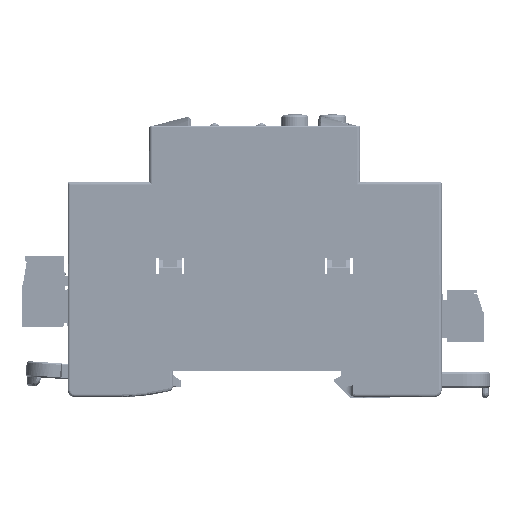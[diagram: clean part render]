
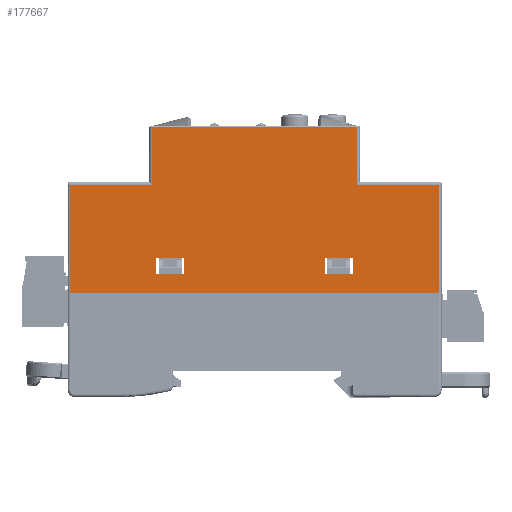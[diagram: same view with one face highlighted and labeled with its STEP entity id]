
A CAD part, left-side view. The second image highlights one B-rep face of the part: STEP entity #177667.
In plain terms, the highlighted planar face has unit normal (-1, 0, 0).
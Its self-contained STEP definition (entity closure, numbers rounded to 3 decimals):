
#13800 = FACE_BOUND ( 'NONE', #146194, .T. ) ;
#15026 = CARTESIAN_POINT ( 'NONE',  ( -193.4, -19.568, 164.355 ) ) ;
#15323 = ORIENTED_EDGE ( 'NONE', *, *, #309775, .F. ) ;
#26006 = CARTESIAN_POINT ( 'NONE',  ( -193.4, -26.468, 180.055 ) ) ;
#28095 = VERTEX_POINT ( 'NONE', #51023 ) ;
#28944 = EDGE_CURVE ( 'NONE', #97339, #76295, #176525, .T. ) ;
#30054 = VECTOR ( 'NONE', #292951, 1000. ) ;
#34980 = CARTESIAN_POINT ( 'NONE',  ( -193.4, 17.932, 180.055 ) ) ;
#37454 = CARTESIAN_POINT ( 'NONE',  ( -193.4, 10.432, 153.305 ) ) ;
#37524 = CARTESIAN_POINT ( 'NONE',  ( -193.4, 10.432, 164.355 ) ) ;
#38645 = CARTESIAN_POINT ( 'NONE',  ( -193.4, 17.332, 180.055 ) ) ;
#39932 = CARTESIAN_POINT ( 'NONE',  ( -193.4, -43.968, 156.855 ) ) ;
#41593 = DIRECTION ( 'NONE',  ( 0., -1., 0. ) ) ;
#43092 = ORIENTED_EDGE ( 'NONE', *, *, #193302, .F. ) ;
#45216 = ORIENTED_EDGE ( 'NONE', *, *, #300458, .T. ) ;
#47551 = DIRECTION ( 'NONE',  ( 0., 0., -1. ) ) ;
#49279 = VECTOR ( 'NONE', #243912, 1000. ) ;
#50095 = B_SPLINE_CURVE_WITH_KNOTS ( 'NONE', 1,
 ( #131820, #229501 ),
 .UNSPECIFIED., .F., .F.,
 ( 2, 2 ),
 ( 0., 12.3 ),
 .UNSPECIFIED. ) ;
#50936 = VECTOR ( 'NONE', #47551, 1000. ) ;
#51023 = CARTESIAN_POINT ( 'NONE',  ( -193.4, 34.832, 156.855 ) ) ;
#55421 = CARTESIAN_POINT ( 'NONE',  ( -193.4, -26.468, 180.055 ) ) ;
#55750 = ORIENTED_EDGE ( 'NONE', *, *, #56400, .F. ) ;
#56400 = EDGE_CURVE ( 'NONE', #224735, #188336, #111400, .T. ) ;
#67933 = EDGE_CURVE ( 'NONE', #105947, #242146, #144212, .T. ) ;
#72580 = CARTESIAN_POINT ( 'NONE',  ( -193.4, 17.332, 180.055 ) ) ;
#73875 = FACE_OUTER_BOUND ( 'NONE', #321922, .T. ) ;
#76295 = VERTEX_POINT ( 'NONE', #270026 ) ;
#79848 = EDGE_CURVE ( 'NONE', #242146, #260730, #148384, .T. ) ;
#81273 = FACE_BOUND ( 'NONE', #404322, .T. ) ;
#92250 = CARTESIAN_POINT ( 'NONE',  ( -193.4, -26.468, 192.355 ) ) ;
#96241 = CARTESIAN_POINT ( 'NONE',  ( -193.4, -43.968, 156.855 ) ) ;
#97339 = VERTEX_POINT ( 'NONE', #37524 ) ;
#99840 = AXIS2_PLACEMENT_3D ( 'NONE', #186999, #449651, #284274 ) ;
#105947 = VERTEX_POINT ( 'NONE', #302153 ) ;
#111400 = B_SPLINE_CURVE_WITH_KNOTS ( 'NONE', 1,
 ( #140076, #34980, #72580 ),
 .UNSPECIFIED., .F., .F.,
 ( 2, 1, 2 ),
 ( 0., 16.9, 17.5 ),
 .UNSPECIFIED. ) ;
#116769 = LINE ( 'NONE', #296937, #147808 ) ;
#121188 = CARTESIAN_POINT ( 'NONE',  ( -193.4, 17.332, 192.355 ) ) ;
#121359 = DIRECTION ( 'NONE',  ( 0., 0., 1. ) ) ;
#131820 = CARTESIAN_POINT ( 'NONE',  ( -193.4, -26.468, 180.055 ) ) ;
#132907 = EDGE_CURVE ( 'NONE', #224735, #28095, #452842, .T. ) ;
#140076 = CARTESIAN_POINT ( 'NONE',  ( -193.4, 34.832, 180.055 ) ) ;
#144212 = LINE ( 'NONE', #406905, #422583 ) ;
#146194 = EDGE_LOOP ( 'NONE', ( #312798, #270880, #266396, #460225 ) ) ;
#147808 = VECTOR ( 'NONE', #41593, 1000. ) ;
#148384 = LINE ( 'NONE', #358448, #259501 ) ;
#157905 = CARTESIAN_POINT ( 'NONE',  ( -193.4, -25.568, 164.355 ) ) ;
#159348 = ORIENTED_EDGE ( 'NONE', *, *, #295435, .T. ) ;
#161412 = CARTESIAN_POINT ( 'NONE',  ( -193.4, 42.712, 164.355 ) ) ;
#162189 = EDGE_CURVE ( 'NONE', #323618, #372594, #116769, .T. ) ;
#167526 = CARTESIAN_POINT ( 'NONE',  ( -193.4, -43.968, 180.055 ) ) ;
#172837 = VECTOR ( 'NONE', #420300, 1000. ) ;
#176525 = LINE ( 'NONE', #161412, #49279 ) ;
#177667 = ADVANCED_FACE ( 'NONE', ( #81273, #13800, #73875 ), #329598, .T. ) ;
#181850 = B_SPLINE_CURVE_WITH_KNOTS ( 'NONE', 1,
 ( #96241, #231494 ),
 .UNSPECIFIED., .F., .F.,
 ( 2, 2 ),
 ( 0., 78.8 ),
 .UNSPECIFIED. ) ;
#186999 = CARTESIAN_POINT ( 'NONE',  ( -193.4, 42.712, 153.305 ) ) ;
#188336 = VERTEX_POINT ( 'NONE', #300306 ) ;
#191616 = CARTESIAN_POINT ( 'NONE',  ( -193.4, -43.968, 180.055 ) ) ;
#191684 = ORIENTED_EDGE ( 'NONE', *, *, #132907, .T. ) ;
#193302 = EDGE_CURVE ( 'NONE', #311323, #28095, #181850, .T. ) ;
#196066 = CARTESIAN_POINT ( 'NONE',  ( -193.4, 34.832, 180.055 ) ) ;
#201106 = B_SPLINE_CURVE_WITH_KNOTS ( 'NONE', 1,
 ( #26006, #363973, #453845 ),
 .UNSPECIFIED., .F., .F.,
 ( 2, 1, 2 ),
 ( 0., 0.6, 17.5 ),
 .UNSPECIFIED. ) ;
#204772 = CARTESIAN_POINT ( 'NONE',  ( -193.4, -19.568, 160.855 ) ) ;
#206149 = CARTESIAN_POINT ( 'NONE',  ( -193.4, 17.332, 192.355 ) ) ;
#221236 = CARTESIAN_POINT ( 'NONE',  ( -193.4, -26.468, 192.355 ) ) ;
#221742 = VECTOR ( 'NONE', #464706, 1000. ) ;
#224735 = VERTEX_POINT ( 'NONE', #409167 ) ;
#229501 = CARTESIAN_POINT ( 'NONE',  ( -193.4, -26.468, 192.355 ) ) ;
#231494 = CARTESIAN_POINT ( 'NONE',  ( -193.4, 34.832, 156.855 ) ) ;
#232325 = EDGE_CURVE ( 'NONE', #338406, #403467, #201106, .T. ) ;
#232917 = LINE ( 'NONE', #345700, #30054 ) ;
#233610 = CARTESIAN_POINT ( 'NONE',  ( -193.4, 34.832, 156.855 ) ) ;
#237665 = CARTESIAN_POINT ( 'NONE',  ( -193.4, 17.332, 192.355 ) ) ;
#242146 = VERTEX_POINT ( 'NONE', #157905 ) ;
#243912 = DIRECTION ( 'NONE',  ( 0., 1., 0. ) ) ;
#246562 = EDGE_CURVE ( 'NONE', #342030, #344496, #378971, .T. ) ;
#250193 = LINE ( 'NONE', #430354, #50936 ) ;
#253565 = EDGE_CURVE ( 'NONE', #447944, #105947, #232917, .T. ) ;
#259501 = VECTOR ( 'NONE', #411060, 1000. ) ;
#260730 = VERTEX_POINT ( 'NONE', #15026 ) ;
#261848 = ORIENTED_EDGE ( 'NONE', *, *, #232325, .F. ) ;
#266396 = ORIENTED_EDGE ( 'NONE', *, *, #253565, .F. ) ;
#270026 = CARTESIAN_POINT ( 'NONE',  ( -193.4, 16.432, 164.355 ) ) ;
#270880 = ORIENTED_EDGE ( 'NONE', *, *, #67933, .F. ) ;
#284274 = DIRECTION ( 'NONE',  ( 0., 0., 1. ) ) ;
#292951 = DIRECTION ( 'NONE',  ( 0., -1., 0. ) ) ;
#294822 = ORIENTED_EDGE ( 'NONE', *, *, #162189, .F. ) ;
#295435 = EDGE_CURVE ( 'NONE', #311323, #403467, #315756, .T. ) ;
#296937 = CARTESIAN_POINT ( 'NONE',  ( -193.4, 42.712, 160.855 ) ) ;
#298436 = EDGE_CURVE ( 'NONE', #260730, #447944, #250193, .T. ) ;
#300306 = CARTESIAN_POINT ( 'NONE',  ( -193.4, 17.332, 180.055 ) ) ;
#300458 = EDGE_CURVE ( 'NONE', #344496, #188336, #446361, .T. ) ;
#302153 = CARTESIAN_POINT ( 'NONE',  ( -193.4, -25.568, 160.855 ) ) ;
#309775 = EDGE_CURVE ( 'NONE', #76295, #323618, #396925, .T. ) ;
#311323 = VERTEX_POINT ( 'NONE', #433137 ) ;
#312798 = ORIENTED_EDGE ( 'NONE', *, *, #79848, .F. ) ;
#315756 = B_SPLINE_CURVE_WITH_KNOTS ( 'NONE', 1,
 ( #39932, #167526 ),
 .UNSPECIFIED., .F., .F.,
 ( 2, 2 ),
 ( 0., 23.2 ),
 .UNSPECIFIED. ) ;
#321922 = EDGE_LOOP ( 'NONE', ( #45216, #55750, #191684, #43092, #159348, #261848, #388523, #446846 ) ) ;
#323618 = VERTEX_POINT ( 'NONE', #329453 ) ;
#329453 = CARTESIAN_POINT ( 'NONE',  ( -193.4, 16.432, 160.855 ) ) ;
#329598 = PLANE ( 'NONE',  #99840 ) ;
#334677 = ORIENTED_EDGE ( 'NONE', *, *, #440505, .F. ) ;
#338406 = VERTEX_POINT ( 'NONE', #55421 ) ;
#342030 = VERTEX_POINT ( 'NONE', #92250 ) ;
#344496 = VERTEX_POINT ( 'NONE', #237665 ) ;
#345700 = CARTESIAN_POINT ( 'NONE',  ( -193.4, 42.712, 160.855 ) ) ;
#351316 = EDGE_CURVE ( 'NONE', #338406, #342030, #50095, .T. ) ;
#358448 = CARTESIAN_POINT ( 'NONE',  ( -193.4, 42.712, 164.355 ) ) ;
#363973 = CARTESIAN_POINT ( 'NONE',  ( -193.4, -27.068, 180.055 ) ) ;
#372594 = VERTEX_POINT ( 'NONE', #425430 ) ;
#378971 = B_SPLINE_CURVE_WITH_KNOTS ( 'NONE', 1,
 ( #221236, #206149 ),
 .UNSPECIFIED., .F., .F.,
 ( 2, 2 ),
 ( 0., 43.8 ),
 .UNSPECIFIED. ) ;
#388523 = ORIENTED_EDGE ( 'NONE', *, *, #351316, .T. ) ;
#396925 = LINE ( 'NONE', #449609, #221742 ) ;
#403467 = VERTEX_POINT ( 'NONE', #191616 ) ;
#404322 = EDGE_LOOP ( 'NONE', ( #431740, #334677, #294822, #15323 ) ) ;
#406905 = CARTESIAN_POINT ( 'NONE',  ( -193.4, -25.568, 153.305 ) ) ;
#409167 = CARTESIAN_POINT ( 'NONE',  ( -193.4, 34.832, 180.055 ) ) ;
#411060 = DIRECTION ( 'NONE',  ( 0., 1., 0. ) ) ;
#420300 = DIRECTION ( 'NONE',  ( 0., 0., 1. ) ) ;
#422583 = VECTOR ( 'NONE', #121359, 1000. ) ;
#425430 = CARTESIAN_POINT ( 'NONE',  ( -193.4, 10.432, 160.855 ) ) ;
#430354 = CARTESIAN_POINT ( 'NONE',  ( -193.4, -19.568, 153.305 ) ) ;
#431740 = ORIENTED_EDGE ( 'NONE', *, *, #28944, .F. ) ;
#433137 = CARTESIAN_POINT ( 'NONE',  ( -193.4, -43.968, 156.855 ) ) ;
#440505 = EDGE_CURVE ( 'NONE', #372594, #97339, #442745, .T. ) ;
#442745 = LINE ( 'NONE', #37454, #172837 ) ;
#446361 = B_SPLINE_CURVE_WITH_KNOTS ( 'NONE', 1,
 ( #121188, #38645 ),
 .UNSPECIFIED., .F., .F.,
 ( 2, 2 ),
 ( 0., 12.3 ),
 .UNSPECIFIED. ) ;
#446846 = ORIENTED_EDGE ( 'NONE', *, *, #246562, .T. ) ;
#447944 = VERTEX_POINT ( 'NONE', #204772 ) ;
#449609 = CARTESIAN_POINT ( 'NONE',  ( -193.4, 16.432, 153.305 ) ) ;
#449651 = DIRECTION ( 'NONE',  ( -1., 0., 0. ) ) ;
#452842 = B_SPLINE_CURVE_WITH_KNOTS ( 'NONE', 1,
 ( #196066, #233610 ),
 .UNSPECIFIED., .F., .F.,
 ( 2, 2 ),
 ( 0., 23.2 ),
 .UNSPECIFIED. ) ;
#453845 = CARTESIAN_POINT ( 'NONE',  ( -193.4, -43.968, 180.055 ) ) ;
#460225 = ORIENTED_EDGE ( 'NONE', *, *, #298436, .F. ) ;
#464706 = DIRECTION ( 'NONE',  ( 0., 0., -1. ) ) ;
